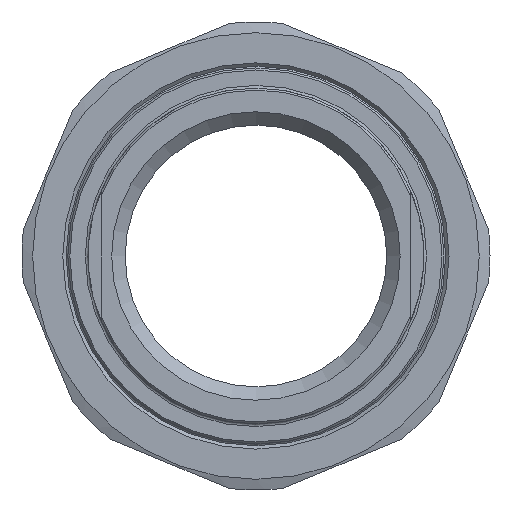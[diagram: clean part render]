
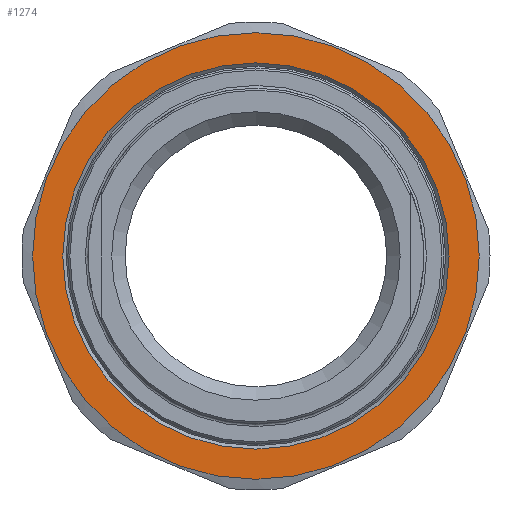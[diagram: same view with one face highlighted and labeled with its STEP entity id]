
A CAD part, left-side view. The second image highlights one B-rep face of the part: STEP entity #1274.
In plain terms, the highlighted planar face has unit normal (-1, 0, 0).
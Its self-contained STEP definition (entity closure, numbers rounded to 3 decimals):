
#47=FACE_BOUND('',#231,.T.);
#110=PLANE('',#1449);
#151=FACE_OUTER_BOUND('',#230,.T.);
#230=EDGE_LOOP('',(#955));
#231=EDGE_LOOP('',(#956));
#443=CIRCLE('',#1436,33.25);
#445=CIRCLE('',#1444,28.75);
#566=VERTEX_POINT('',#2137);
#568=VERTEX_POINT('',#2191);
#696=EDGE_CURVE('',#566,#566,#443,.T.);
#713=EDGE_CURVE('',#568,#568,#445,.T.);
#955=ORIENTED_EDGE('',*,*,#696,.T.);
#956=ORIENTED_EDGE('',*,*,#713,.F.);
#1274=ADVANCED_FACE('',(#151,#47),#110,.F.);
#1436=AXIS2_PLACEMENT_3D('',#2139,#1678,#1679);
#1444=AXIS2_PLACEMENT_3D('',#2192,#1695,#1696);
#1449=AXIS2_PLACEMENT_3D('',#2202,#1707,#1708);
#1678=DIRECTION('center_axis',(-1.,0.,0.));
#1679=DIRECTION('ref_axis',(0.,1.,0.));
#1695=DIRECTION('center_axis',(-1.,0.,0.));
#1696=DIRECTION('ref_axis',(0.,-1.,0.));
#1707=DIRECTION('center_axis',(1.,0.,0.));
#1708=DIRECTION('ref_axis',(0.,0.,-1.));
#2137=CARTESIAN_POINT('',(-20.,-33.25,0.));
#2139=CARTESIAN_POINT('Origin',(-20.,0.,0.));
#2191=CARTESIAN_POINT('',(-20.,28.75,0.));
#2192=CARTESIAN_POINT('Origin',(-20.,0.,0.));
#2202=CARTESIAN_POINT('Origin',(-20.,0.,0.));
